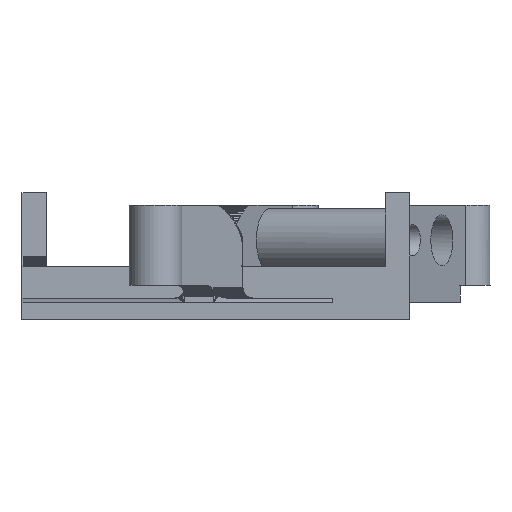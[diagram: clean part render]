
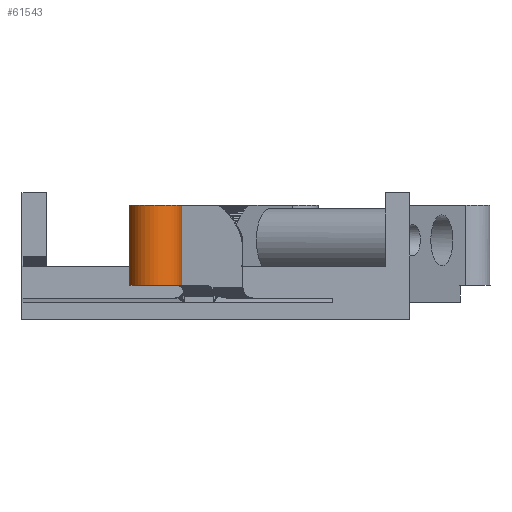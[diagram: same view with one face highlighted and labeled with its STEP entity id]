
A CAD part, left-side view. The second image highlights one B-rep face of the part: STEP entity #61543.
In plain terms, the highlighted cylindrical face has radius 2.5 mm (diameter 5 mm), a partial arc.
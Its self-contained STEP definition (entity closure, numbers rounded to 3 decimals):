
#8427 = PLANE('',#8428);
#8428 = AXIS2_PLACEMENT_3D('',#8429,#8430,#8431);
#8429 = CARTESIAN_POINT('',(213.243,-8.856,
    5.973));
#8430 = DIRECTION('',(-0.561,-0.828,
    0.));
#8431 = DIRECTION('',(0.,0.,1.));
#8707 = PLANE('',#8708);
#8708 = AXIS2_PLACEMENT_3D('',#8709,#8710,#8711);
#8709 = CARTESIAN_POINT('',(213.208,-6.054,
    5.882));
#8710 = DIRECTION('',(0.561,0.828,0.)
  );
#8711 = DIRECTION('',(0.,0.,-1.));
#17228 = PLANE('',#17229);
#17229 = AXIS2_PLACEMENT_3D('',#17230,#17231,#17232);
#17230 = CARTESIAN_POINT('',(205.57,-2.54,
    10.8));
#17231 = DIRECTION('',(0.,0.,1.));
#17232 = DIRECTION('',(0.,1.,0.));
#45949 = VERTEX_POINT('',#45950);
#45950 = CARTESIAN_POINT('',(207.069,-4.676,
    10.8));
#45971 = EDGE_CURVE('',#45949,#45972,#45974,.T.);
#45972 = VERTEX_POINT('',#45973);
#45973 = CARTESIAN_POINT('',(207.069,-4.676,
    3.2));
#45974 = SURFACE_CURVE('',#45975,(#45979,#45986),.PCURVE_S1.);
#45975 = ( BOUNDED_CURVE() B_SPLINE_CURVE(2,(#45976,#45977,#45978),
.UNSPECIFIED.,.F.,.F.) B_SPLINE_CURVE_WITH_KNOTS((3,3),(0.,1.),
.PIECEWISE_BEZIER_KNOTS.) CURVE() GEOMETRIC_REPRESENTATION_ITEM() 
RATIONAL_B_SPLINE_CURVE((1.,1.,1.)) REPRESENTATION_ITEM('') );
#45976 = CARTESIAN_POINT('',(207.069,-4.676,
    10.8));
#45977 = CARTESIAN_POINT('',(207.069,-4.676,
    7.));
#45978 = CARTESIAN_POINT('',(207.069,-4.676,
    3.2));
#45979 = PCURVE('',#8427,#45980);
#45980 = DEFINITIONAL_REPRESENTATION('',(#45981),#45985);
#45981 = ( BOUNDED_CURVE() B_SPLINE_CURVE(2,(#45982,#45983,#45984),
.UNSPECIFIED.,.F.,.F.) B_SPLINE_CURVE_WITH_KNOTS((3,3),(0.,1.),
.PIECEWISE_BEZIER_KNOTS.) CURVE() GEOMETRIC_REPRESENTATION_ITEM() 
RATIONAL_B_SPLINE_CURVE((1.,1.,1.)) REPRESENTATION_ITEM('') );
#45982 = CARTESIAN_POINT('',(4.827,7.456));
#45983 = CARTESIAN_POINT('',(1.027,7.456));
#45984 = CARTESIAN_POINT('',(-2.773,7.456));
#45985 = ( GEOMETRIC_REPRESENTATION_CONTEXT(2) 
PARAMETRIC_REPRESENTATION_CONTEXT() REPRESENTATION_CONTEXT('2D SPACE',''
  ) );
#45986 = PCURVE('',#45987,#45992);
#45987 = CYLINDRICAL_SURFACE('',#45988,2.5);
#45988 = AXIS2_PLACEMENT_3D('',#45989,#45990,#45991);
#45989 = CARTESIAN_POINT('',(205.682,-2.596,7.));
#45990 = DIRECTION('',(0.,0.,1.));
#45991 = DIRECTION('',(0.876,-0.482,0.));
#45992 = DEFINITIONAL_REPRESENTATION('',(#45993),#46000);
#45993 = B_SPLINE_CURVE_WITH_KNOTS('',5,(#45994,#45995,#45996,#45997,
    #45998,#45999),.UNSPECIFIED.,.F.,.F.,(6,6),(0.,1.),
  .PIECEWISE_BEZIER_KNOTS.);
#45994 = CARTESIAN_POINT('',(5.803,3.8));
#45995 = CARTESIAN_POINT('',(5.803,2.28));
#45996 = CARTESIAN_POINT('',(5.803,0.76));
#45997 = CARTESIAN_POINT('',(5.803,-0.76));
#45998 = CARTESIAN_POINT('',(5.803,-2.28));
#45999 = CARTESIAN_POINT('',(5.803,-3.8));
#46000 = ( GEOMETRIC_REPRESENTATION_CONTEXT(2) 
PARAMETRIC_REPRESENTATION_CONTEXT() REPRESENTATION_CONTEXT('2D SPACE',''
  ) );
#46018 = PLANE('',#46019);
#46019 = AXIS2_PLACEMENT_3D('',#46020,#46021,#46022);
#46020 = CARTESIAN_POINT('',(205.557,-2.531,
    3.2));
#46021 = DIRECTION('',(-0.,-0.,-1.));
#46022 = DIRECTION('',(0.,-1.,0.));
#50148 = VERTEX_POINT('',#50149);
#50149 = CARTESIAN_POINT('',(208.181,-2.652,
    3.2));
#50212 = EDGE_CURVE('',#45972,#50148,#50213,.T.);
#50213 = SURFACE_CURVE('',#50214,(#50219,#50226),.PCURVE_S1.);
#50214 = ELLIPSE('',#50215,2.5,2.5);
#50215 = AXIS2_PLACEMENT_3D('',#50216,#50217,#50218);
#50216 = CARTESIAN_POINT('',(205.682,-2.596,
    3.2));
#50217 = DIRECTION('',(0.,0.,-1.));
#50218 = DIRECTION('',(0.482,0.876,0.));
#50219 = PCURVE('',#46018,#50220);
#50220 = DEFINITIONAL_REPRESENTATION('',(#50221),#50225);
#50221 = ELLIPSE('',#50222,2.5,2.5);
#50222 = AXIS2_PLACEMENT_2D('',#50223,#50224);
#50223 = CARTESIAN_POINT('',(0.065,-0.125));
#50224 = DIRECTION('',(-0.876,-0.482));
#50225 = ( GEOMETRIC_REPRESENTATION_CONTEXT(2) 
PARAMETRIC_REPRESENTATION_CONTEXT() REPRESENTATION_CONTEXT('2D SPACE',''
  ) );
#50226 = PCURVE('',#45987,#50227);
#50227 = DEFINITIONAL_REPRESENTATION('',(#50228),#50235);
#50228 = B_SPLINE_CURVE_WITH_KNOTS('',5,(#50229,#50230,#50231,#50232,
    #50233,#50234),.UNSPECIFIED.,.F.,.F.,(6,6),(2.051,
    7.374),.PIECEWISE_BEZIER_KNOTS.);
#50229 = CARTESIAN_POINT('',(5.803,-3.8));
#50230 = CARTESIAN_POINT('',(4.738,-3.8));
#50231 = CARTESIAN_POINT('',(3.674,-3.8));
#50232 = CARTESIAN_POINT('',(2.609,-3.8));
#50233 = CARTESIAN_POINT('',(1.545,-3.8));
#50234 = CARTESIAN_POINT('',(0.48,-3.8));
#50235 = ( GEOMETRIC_REPRESENTATION_CONTEXT(2) 
PARAMETRIC_REPRESENTATION_CONTEXT() REPRESENTATION_CONTEXT('2D SPACE',''
  ) );
#61543 = ADVANCED_FACE('',(#61544),#45987,.T.);
#61544 = FACE_BOUND('',#61545,.T.);
#61545 = EDGE_LOOP('',(#61546,#61572,#61573,#61574));
#61546 = ORIENTED_EDGE('',*,*,#61547,.T.);
#61547 = EDGE_CURVE('',#61548,#50148,#61550,.T.);
#61548 = VERTEX_POINT('',#61549);
#61549 = CARTESIAN_POINT('',(208.181,-2.652,
    10.8));
#61550 = SURFACE_CURVE('',#61551,(#61555,#61565),.PCURVE_S1.);
#61551 = ( BOUNDED_CURVE() B_SPLINE_CURVE(2,(#61552,#61553,#61554),
.UNSPECIFIED.,.F.,.F.) B_SPLINE_CURVE_WITH_KNOTS((3,3),(0.,1.),
.PIECEWISE_BEZIER_KNOTS.) CURVE() GEOMETRIC_REPRESENTATION_ITEM() 
RATIONAL_B_SPLINE_CURVE((1.,1.,1.)) REPRESENTATION_ITEM('') );
#61552 = CARTESIAN_POINT('',(208.181,-2.652,
    10.8));
#61553 = CARTESIAN_POINT('',(208.181,-2.652,
    7.));
#61554 = CARTESIAN_POINT('',(208.181,-2.652,
    3.2));
#61555 = PCURVE('',#45987,#61556);
#61556 = DEFINITIONAL_REPRESENTATION('',(#61557),#61564);
#61557 = B_SPLINE_CURVE_WITH_KNOTS('',5,(#61558,#61559,#61560,#61561,
    #61562,#61563),.UNSPECIFIED.,.F.,.F.,(6,6),(0.,1.),
  .PIECEWISE_BEZIER_KNOTS.);
#61558 = CARTESIAN_POINT('',(0.48,3.8));
#61559 = CARTESIAN_POINT('',(0.48,2.28));
#61560 = CARTESIAN_POINT('',(0.48,0.76));
#61561 = CARTESIAN_POINT('',(0.48,-0.76));
#61562 = CARTESIAN_POINT('',(0.48,-2.28));
#61563 = CARTESIAN_POINT('',(0.48,-3.8));
#61564 = ( GEOMETRIC_REPRESENTATION_CONTEXT(2) 
PARAMETRIC_REPRESENTATION_CONTEXT() REPRESENTATION_CONTEXT('2D SPACE',''
  ) );
#61565 = PCURVE('',#8707,#61566);
#61566 = DEFINITIONAL_REPRESENTATION('',(#61567),#61571);
#61567 = ( BOUNDED_CURVE() B_SPLINE_CURVE(2,(#61568,#61569,#61570),
.UNSPECIFIED.,.F.,.F.) B_SPLINE_CURVE_WITH_KNOTS((3,3),(0.,1.),
.PIECEWISE_BEZIER_KNOTS.) CURVE() GEOMETRIC_REPRESENTATION_ITEM() 
RATIONAL_B_SPLINE_CURVE((1.,1.,1.)) REPRESENTATION_ITEM('') );
#61568 = CARTESIAN_POINT('',(-4.918,6.07));
#61569 = CARTESIAN_POINT('',(-1.118,6.07));
#61570 = CARTESIAN_POINT('',(2.682,6.07));
#61571 = ( GEOMETRIC_REPRESENTATION_CONTEXT(2) 
PARAMETRIC_REPRESENTATION_CONTEXT() REPRESENTATION_CONTEXT('2D SPACE',''
  ) );
#61572 = ORIENTED_EDGE('',*,*,#50212,.F.);
#61573 = ORIENTED_EDGE('',*,*,#45971,.F.);
#61574 = ORIENTED_EDGE('',*,*,#61575,.T.);
#61575 = EDGE_CURVE('',#45949,#61548,#61576,.T.);
#61576 = SURFACE_CURVE('',#61577,(#61582,#61592),.PCURVE_S1.);
#61577 = ELLIPSE('',#61578,2.5,2.5);
#61578 = AXIS2_PLACEMENT_3D('',#61579,#61580,#61581);
#61579 = CARTESIAN_POINT('',(205.682,-2.596,
    10.8));
#61580 = DIRECTION('',(0.,0.,-1.));
#61581 = DIRECTION('',(0.482,0.876,0.));
#61582 = PCURVE('',#45987,#61583);
#61583 = DEFINITIONAL_REPRESENTATION('',(#61584),#61591);
#61584 = B_SPLINE_CURVE_WITH_KNOTS('',5,(#61585,#61586,#61587,#61588,
    #61589,#61590),.UNSPECIFIED.,.F.,.F.,(6,6),(2.051,
    7.374),.PIECEWISE_BEZIER_KNOTS.);
#61585 = CARTESIAN_POINT('',(5.803,3.8));
#61586 = CARTESIAN_POINT('',(4.738,3.8));
#61587 = CARTESIAN_POINT('',(3.674,3.8));
#61588 = CARTESIAN_POINT('',(2.609,3.8));
#61589 = CARTESIAN_POINT('',(1.545,3.8));
#61590 = CARTESIAN_POINT('',(0.48,3.8));
#61591 = ( GEOMETRIC_REPRESENTATION_CONTEXT(2) 
PARAMETRIC_REPRESENTATION_CONTEXT() REPRESENTATION_CONTEXT('2D SPACE',''
  ) );
#61592 = PCURVE('',#17228,#61593);
#61593 = DEFINITIONAL_REPRESENTATION('',(#61594),#61602);
#61594 = ( BOUNDED_CURVE() B_SPLINE_CURVE(2,(#61595,#61596,#61597,#61598
    ,#61599,#61600,#61601),.UNSPECIFIED.,.T.,.F.) 
B_SPLINE_CURVE_WITH_KNOTS((1,2,2,2,2,1),(-2.094,0.,
    2.094,4.189,6.283,8.378),
.UNSPECIFIED.) CURVE() GEOMETRIC_REPRESENTATION_ITEM() 
RATIONAL_B_SPLINE_CURVE((1.,0.5,1.,0.5,1.,0.5,1.)) REPRESENTATION_ITEM(
  '') );
#61595 = CARTESIAN_POINT('',(2.135,-1.315));
#61596 = CARTESIAN_POINT('',(0.05,-5.111));
#61597 = CARTESIAN_POINT('',(-2.194,-1.407));
#61598 = CARTESIAN_POINT('',(-4.439,2.296));
#61599 = CARTESIAN_POINT('',(-0.109,2.388));
#61600 = CARTESIAN_POINT('',(4.22,2.48));
#61601 = CARTESIAN_POINT('',(2.135,-1.315));
#61602 = ( GEOMETRIC_REPRESENTATION_CONTEXT(2) 
PARAMETRIC_REPRESENTATION_CONTEXT() REPRESENTATION_CONTEXT('2D SPACE',''
  ) );
